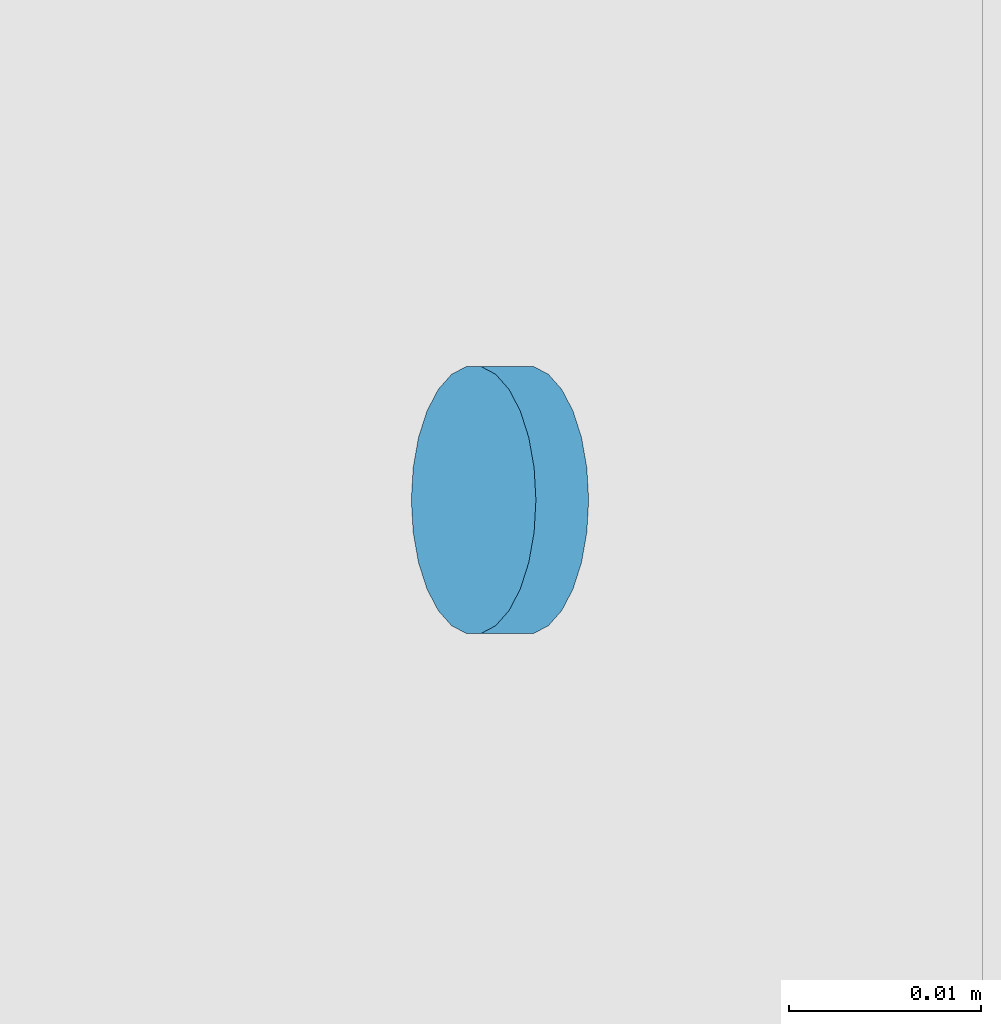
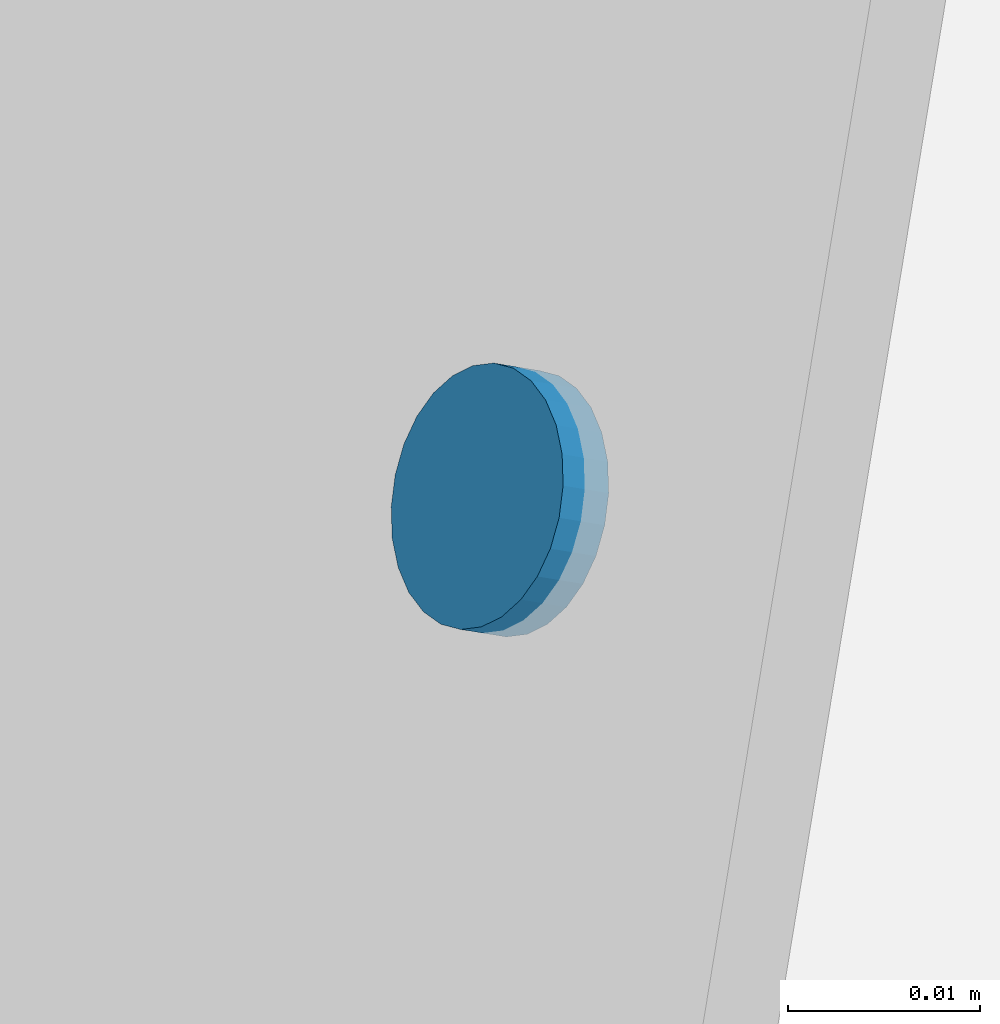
# One storey, part 258 of 362: 1 mechanical fastener.
"""IFC2X3 building model written with IfcOpenShell, lengths in millimetres."""

from ifc_helpers import new_model, si_unit, frame, origin_with_axes, origin_2d_with_axis, place, context, subcontext, project, spatial, circle, extrude, source, transform, mapped, material, type_object, element, save


model = new_model("IFC2X3")

# Units and contexts
model_context = context("Model", 3, precision=1e-05, world=origin_with_axes())
body_context = subcontext(model_context, "Body", "Model", "MODEL_VIEW")
ifc_project = project(units=[si_unit("LENGTHUNIT", "METRE", prefix="MILLI"), si_unit("AREAUNIT", "SQUARE_METRE"), si_unit("VOLUMEUNIT", "CUBIC_METRE"), si_unit("MASSUNIT", "GRAM", prefix="KILO"), si_unit("TIMEUNIT", "SECOND"), si_unit("PLANEANGLEUNIT", "RADIAN"), si_unit("SOLIDANGLEUNIT", "STERADIAN"), si_unit("THERMODYNAMICTEMPERATUREUNIT", "DEGREE_CELSIUS"), si_unit("LUMINOUSINTENSITYUNIT", "LUMEN")], contexts=[model_context])

# Site, building, storey
site_placement = place(None, origin_with_axes())
site = spatial("IfcSite", under=ifc_project, at=site_placement, Name="Undefined", CompositionType="ELEMENT")
building_placement = place(site_placement, origin_with_axes())
building = spatial("IfcBuilding", under=site, at=building_placement, Name="Undefined", CompositionType="ELEMENT")
storey_placement = place(building_placement, origin_with_axes())
storey = spatial("IfcBuildingStorey", under=building, at=storey_placement, Name="Undefined", CompositionType="ELEMENT", Elevation=0.0)

# Mechanical fastener
ifc_material = material(Name="6.8")
mechanical_fastener_type = type_object("IfcMechanicalFastenerType", Name="Bolt assembly")
shared_shape = source(origin_with_axes(), body_context, "Body", "SweptSolid", [
    extrude(circle(Radius=7.0, at=origin_2d_with_axis()), frame((0.0, 0.0, 0.0), z_axis=(0.0, 1.0, 0.0), x_axis=(1.0, 0.0, 0.0)), (0.0, 0.0, 1.0), 3.1),
])
mechanical_fastener_placement = place(storey_placement, frame((19643.5016489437, 1900.0, 8857.28871371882), z_axis=(0.0, -1.0, 0.0), x_axis=(-0.463528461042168, 0.0, -0.886082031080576)))
element("IfcMechanicalFastener", 1, at=mechanical_fastener_placement, inside=storey, type_object=mechanical_fastener_type, material=ifc_material, Name="Bolt assembly", NominalDiameter=12.0, NominalLength=3.0, context=body_context, shape_type="MappedRepresentation", body=[
    mapped(shared_shape, transform((0.0, 0.0, 0.0))),
])

save(model, "model.ifc")
